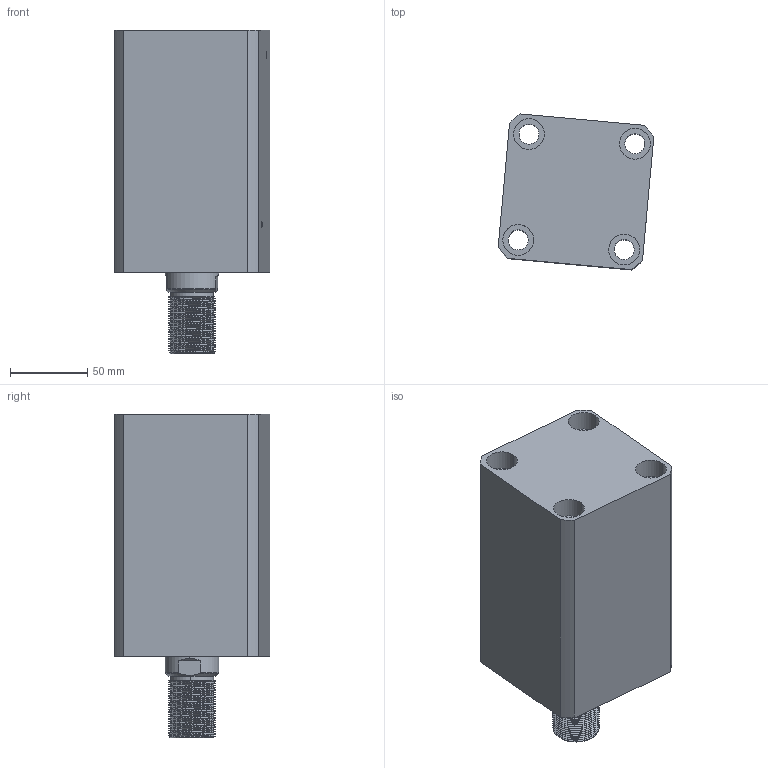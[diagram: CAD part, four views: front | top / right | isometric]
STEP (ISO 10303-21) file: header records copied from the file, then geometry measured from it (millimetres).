
FILE_DESCRIPTION (( 'STEP AP214' ), '1' );
FILE_NAME ('chtb-sdma63x90w_asm.STEP', '2018-05-18T09:45:09', ( 'Windows' ), ( 'Microsoft' ), 'SwSTEP 2.0', 'SolidWorks 2015', '' );
FILE_SCHEMA (( 'AUTOMOTIVE_DESIGN' ));
Length unit declared in the file: millimetre
Products named in the file (4): CHTB-SDMA63X90NBT; CHTB63X90WHSG; CHTB-63QG; chtb-sdma63x90w_asm
Assembly tree (3 placements, depth 2):
  chtb-sdma63x90w_asm
    CHTB-63QG
    CHTB63X90WHSG
    CHTB-SDMA63X90NBT
Bounding box: 100.97 x 100.97 x 210 mm (x, y, z)
Volume: 1113936.9 mm3; surface area: 184488.8 mm2
Topology: 3 solids, 3 shells, 219 faces, 632 edges, 430 vertices
Faces by surface type: cylinder 156, plane 34, bspline 14, cone 9, torus 6
Entity records: 22297 total; most frequent: CARTESIAN_POINT 17024, ORIENTED_EDGE 1256, DIRECTION 878, EDGE_CURVE 628, VERTEX_POINT 430, AXIS2_PLACEMENT_3D 343, EDGE_LOOP 252, FACE_OUTER_BOUND 219
